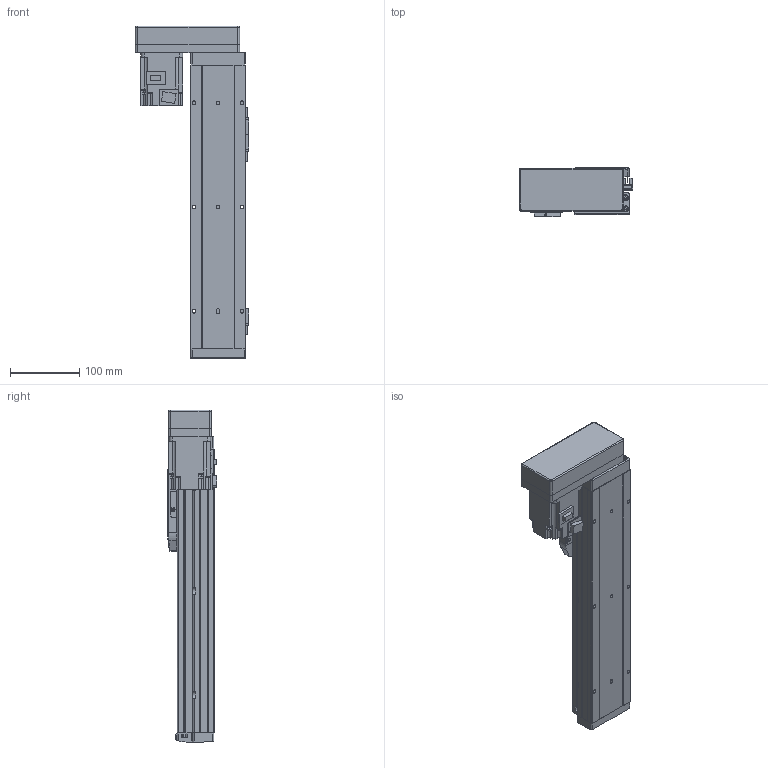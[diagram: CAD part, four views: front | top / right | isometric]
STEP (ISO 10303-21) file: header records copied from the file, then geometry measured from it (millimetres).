
FILE_DESCRIPTION (( 'STEP AP214' ), '1' );
FILE_NAME ('GSH8-250-BR-M20-1.step', '2025-01-07T06:10:02', ( '' ), ( '' ), 'SwSTEP 2.0', 'SolidWorks 2012', '' );
FILE_SCHEMA (( 'AUTOMOTIVE_DESIGN' ));
Length unit declared in the file: millimetre
Products named in the file (5): GSH8-GY-004; GSH8-BL-011-250-M20; HG-KR23_200W_Motor; GSH8-250-BR-M20-1; GSH8-BL-008
Assembly tree (4 placements, depth 2):
  GSH8-250-BR-M20-1
    GSH8-BL-011-250-M20
    GSH8-GY-004
    GSH8-BL-008
    HG-KR23_200W_Motor
Bounding box: 163 x 71.3 x 478.2 mm (x, y, z)
Volume: 1561764.3 mm3; surface area: 343997.3 mm2
Topology: 4 solids, 8 shells, 1082 faces, 2822 edges, 1813 vertices
Faces by surface type: plane 618, cylinder 368, torus 42, cone 26, bspline 24, sphere 4
Entity records: 42502 total; most frequent: CARTESIAN_POINT 9666, DIRECTION 5726, ORIENTED_EDGE 5628, EDGE_CURVE 2814, AXIS2_PLACEMENT_3D 1925, LINE 1876, VECTOR 1876, VERTEX_POINT 1809
